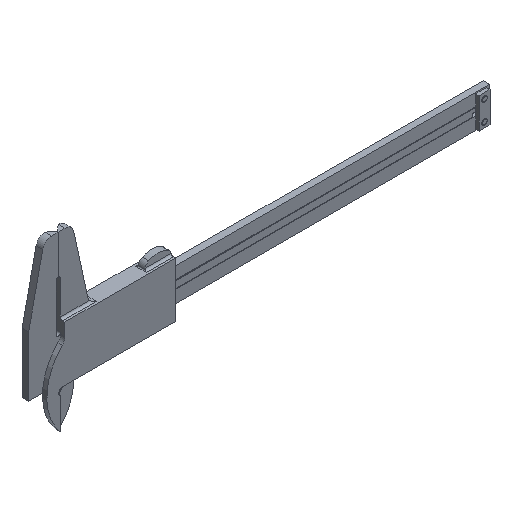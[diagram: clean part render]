
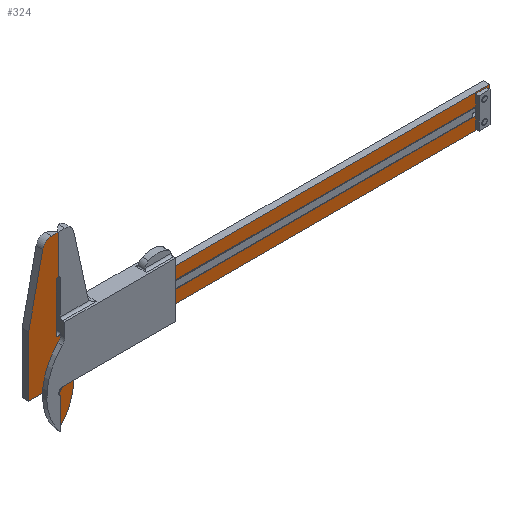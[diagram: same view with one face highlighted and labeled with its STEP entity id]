
A CAD part, isometric view. The second image highlights one B-rep face of the part: STEP entity #324.
In plain terms, the highlighted planar face has unit normal (0, -1, 0).
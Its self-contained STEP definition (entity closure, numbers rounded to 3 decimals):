
#324=ADVANCED_FACE('',(#13123),#13125,.F.);
#13123=FACE_OUTER_BOUND('',#13124,.T.);
#13124=EDGE_LOOP('',(#24093,#24094,#24095,#24096,#24097,#24098,#24099,#24100,#24101,
#24102,#24103,#24104,#24105,#24106,#24107,#24108,#24109,#24110,#24111,#24112,#24113,
#24114,#24115,#24116,#24117,#24118,#24119,#24120,#24121,#24122));
#13125=PLANE('',#13126);
#13126=AXIS2_PLACEMENT_3D('',#13127,#13128,#13129);
#13127=CARTESIAN_POINT('',(0.,0.,0.));
#13128=DIRECTION('',(0.,1.,0.));
#13129=DIRECTION('',(1.,0.,0.));
#24093=ORIENTED_EDGE('',*,*,#32143,.F.);
#24094=ORIENTED_EDGE('',*,*,#32152,.F.);
#24095=ORIENTED_EDGE('',*,*,#32159,.T.);
#24096=ORIENTED_EDGE('',*,*,#32160,.T.);
#24097=ORIENTED_EDGE('',*,*,#32161,.T.);
#24098=ORIENTED_EDGE('',*,*,#32153,.F.);
#24099=ORIENTED_EDGE('',*,*,#32150,.F.);
#24100=ORIENTED_EDGE('',*,*,#32146,.F.);
#24101=ORIENTED_EDGE('',*,*,#32162,.T.);
#24102=ORIENTED_EDGE('',*,*,#32163,.F.);
#24103=ORIENTED_EDGE('',*,*,#32164,.F.);
#24104=ORIENTED_EDGE('',*,*,#32165,.F.);
#24105=ORIENTED_EDGE('',*,*,#32166,.F.);
#24106=ORIENTED_EDGE('',*,*,#32167,.F.);
#24107=ORIENTED_EDGE('',*,*,#32168,.F.);
#24108=ORIENTED_EDGE('',*,*,#32169,.F.);
#24109=ORIENTED_EDGE('',*,*,#32170,.F.);
#24110=ORIENTED_EDGE('',*,*,#32171,.F.);
#24111=ORIENTED_EDGE('',*,*,#32172,.F.);
#24112=ORIENTED_EDGE('',*,*,#32173,.F.);
#24113=ORIENTED_EDGE('',*,*,#32174,.F.);
#24114=ORIENTED_EDGE('',*,*,#32175,.F.);
#24115=ORIENTED_EDGE('',*,*,#32176,.F.);
#24116=ORIENTED_EDGE('',*,*,#32177,.F.);
#24117=ORIENTED_EDGE('',*,*,#32178,.F.);
#24118=ORIENTED_EDGE('',*,*,#32179,.F.);
#24119=ORIENTED_EDGE('',*,*,#32180,.F.);
#24120=ORIENTED_EDGE('',*,*,#32181,.F.);
#24121=ORIENTED_EDGE('',*,*,#32182,.T.);
#24122=ORIENTED_EDGE('',*,*,#32148,.F.);
#32143=EDGE_CURVE('',#36188,#36189,#36190,.F.);
#32146=EDGE_CURVE('',#36193,#36194,#36195,.F.);
#32148=EDGE_CURVE('',#36189,#36197,#36198,.F.);
#32150=EDGE_CURVE('',#36194,#36200,#36201,.F.);
#32152=EDGE_CURVE('',#36203,#36188,#36204,.F.);
#32153=EDGE_CURVE('',#36200,#36205,#36206,.F.);
#32159=EDGE_CURVE('',#36203,#36216,#36217,.F.);
#32160=EDGE_CURVE('',#36216,#36218,#36219,.T.);
#32161=EDGE_CURVE('',#36218,#36205,#36220,.T.);
#32162=EDGE_CURVE('',#36193,#36221,#36222,.T.);
#32163=EDGE_CURVE('',#36223,#36221,#36224,.T.);
#32164=EDGE_CURVE('',#36225,#36223,#36226,.T.);
#32165=EDGE_CURVE('',#36227,#36225,#36228,.T.);
#32166=EDGE_CURVE('',#36229,#36227,#36230,.T.);
#32167=EDGE_CURVE('',#36231,#36229,#36232,.T.);
#32168=EDGE_CURVE('',#36233,#36231,#36234,.T.);
#32169=EDGE_CURVE('',#36235,#36233,#36236,.T.);
#32170=EDGE_CURVE('',#36237,#36235,#36238,.T.);
#32171=EDGE_CURVE('',#36239,#36237,#36240,.T.);
#32172=EDGE_CURVE('',#36241,#36239,#36242,.T.);
#32173=EDGE_CURVE('',#36243,#36241,#36244,.T.);
#32174=EDGE_CURVE('',#36245,#36243,#36246,.T.);
#32175=EDGE_CURVE('',#36247,#36245,#36248,.T.);
#32176=EDGE_CURVE('',#36249,#36247,#36250,.T.);
#32177=EDGE_CURVE('',#36251,#36249,#36252,.T.);
#32178=EDGE_CURVE('',#36253,#36251,#36254,.T.);
#32179=EDGE_CURVE('',#36255,#36253,#36256,.T.);
#32180=EDGE_CURVE('',#36257,#36255,#36258,.T.);
#32181=EDGE_CURVE('',#36259,#36257,#36260,.T.);
#32182=EDGE_CURVE('',#36259,#36197,#36261,.F.);
#36188=VERTEX_POINT('',#42935);
#36189=VERTEX_POINT('',#42936);
#36190=LINE('',#42937,#42938);
#36193=VERTEX_POINT('',#42946);
#36194=VERTEX_POINT('',#42947);
#36195=LINE('',#42948,#42949);
#36197=VERTEX_POINT('',#42954);
#36198=LINE('',#42955,#42956);
#36200=VERTEX_POINT('',#42961);
#36201=LINE('',#42962,#42963);
#36203=VERTEX_POINT('',#42968);
#36204=LINE('',#42969,#42970);
#36205=VERTEX_POINT('',#42972);
#36206=LINE('',#42973,#42974);
#36216=VERTEX_POINT('',#42999);
#36217=LINE('',#43000,#43001);
#36218=VERTEX_POINT('',#43003);
#36219=LINE('',#43004,#43005);
#36220=LINE('',#43007,#43008);
#36221=VERTEX_POINT('',#43010);
#36222=LINE('',#43011,#43012);
#36223=VERTEX_POINT('',#43014);
#36224=LINE('',#43015,#43016);
#36225=VERTEX_POINT('',#43018);
#36226=LINE('',#43019,#43020);
#36227=VERTEX_POINT('',#43022);
#36228=CIRCLE('',#43023,1.);
#36229=VERTEX_POINT('',#43027);
#36230=LINE('',#43028,#43029);
#36231=VERTEX_POINT('',#43031);
#36232=CIRCLE('',#43032,1.);
#36233=VERTEX_POINT('',#43036);
#36234=LINE('',#43037,#43038);
#36235=VERTEX_POINT('',#43040);
#36236=LINE('',#43041,#43042);
#36237=VERTEX_POINT('',#43044);
#36238=CIRCLE('',#43045,4.);
#36239=VERTEX_POINT('',#43049);
#36240=LINE('',#43050,#43051);
#36241=VERTEX_POINT('',#43053);
#36242=LINE('',#43054,#43055);
#36243=VERTEX_POINT('',#43057);
#36244=LINE('',#43058,#43059);
#36245=VERTEX_POINT('',#43061);
#36246=CIRCLE('',#43062,1.742);
#36247=VERTEX_POINT('',#43066);
#36248=LINE('',#43067,#43068);
#36249=VERTEX_POINT('',#43070);
#36250=LINE('',#43071,#43072);
#36251=VERTEX_POINT('',#43074);
#36252=CIRCLE('',#43075,24.747);
#36253=VERTEX_POINT('',#43079);
#36254=LINE('',#43080,#43081);
#36255=VERTEX_POINT('',#43083);
#36256=CIRCLE('',#43084,1.);
#36257=VERTEX_POINT('',#43088);
#36258=LINE('',#43089,#43090);
#36259=VERTEX_POINT('',#43092);
#36260=LINE('',#43093,#43094);
#36261=LINE('',#43096,#43097);
#42935=CARTESIAN_POINT('',(190.115,0.,-7.));
#42936=CARTESIAN_POINT('',(195.115,0.,-7.));
#42937=CARTESIAN_POINT('',(195.115,0.,-7.));
#42938=VECTOR('',#42939,1.);
#42939=DIRECTION('',(-1.,0.,0.));
#42946=CARTESIAN_POINT('',(195.115,0.,1.75));
#42947=CARTESIAN_POINT('',(195.115,0.,7.));
#42948=CARTESIAN_POINT('',(195.115,0.,7.));
#42949=VECTOR('',#42950,1.);
#42950=DIRECTION('',(0.,0.,-1.));
#42954=CARTESIAN_POINT('',(195.115,0.,-1.75));
#42955=CARTESIAN_POINT('',(195.115,0.,-1.75));
#42956=VECTOR('',#42957,1.);
#42957=DIRECTION('',(0.,0.,-1.));
#42961=CARTESIAN_POINT('',(190.115,0.,7.));
#42962=CARTESIAN_POINT('',(190.115,0.,7.));
#42963=VECTOR('',#42964,1.);
#42964=DIRECTION('',(1.,0.,0.));
#42968=CARTESIAN_POINT('',(190.115,0.,-1.75));
#42969=CARTESIAN_POINT('',(190.115,0.,-7.));
#42970=VECTOR('',#42971,1.);
#42971=DIRECTION('',(0.,0.,1.));
#42972=CARTESIAN_POINT('',(190.115,0.,1.75));
#42973=CARTESIAN_POINT('',(190.115,0.,1.75));
#42974=VECTOR('',#42975,1.);
#42975=DIRECTION('',(0.,0.,1.));
#42999=CARTESIAN_POINT('',(10.,0.,-1.75));
#43000=CARTESIAN_POINT('',(10.,0.,-1.75));
#43001=VECTOR('',#43002,1.);
#43002=DIRECTION('',(1.,0.,0.));
#43003=CARTESIAN_POINT('',(10.,0.,1.75));
#43004=CARTESIAN_POINT('',(10.,0.,-1.75));
#43005=VECTOR('',#43006,1.);
#43006=DIRECTION('',(0.,0.,1.));
#43007=CARTESIAN_POINT('',(10.,0.,1.75));
#43008=VECTOR('',#43009,1.);
#43009=DIRECTION('',(1.,0.,0.));
#43010=CARTESIAN_POINT('',(196.5,0.,1.75));
#43011=CARTESIAN_POINT('',(195.115,0.,1.75));
#43012=VECTOR('',#43013,1.);
#43013=DIRECTION('',(1.,0.,0.));
#43014=CARTESIAN_POINT('',(196.5,0.,7.5));
#43015=CARTESIAN_POINT('',(196.5,0.,7.5));
#43016=VECTOR('',#43017,1.);
#43017=DIRECTION('',(0.,0.,-1.));
#43018=CARTESIAN_POINT('',(1.,0.,7.5));
#43019=CARTESIAN_POINT('',(1.,0.,7.5));
#43020=VECTOR('',#43021,1.);
#43021=DIRECTION('',(1.,0.,0.));
#43022=CARTESIAN_POINT('',(-1.,0.,7.5));
#43023=AXIS2_PLACEMENT_3D('',#43024,#43025,#43026);
#43024=CARTESIAN_POINT('',(0.,0.,7.5));
#43025=DIRECTION('',(0.,-1.,0.));
#43026=DIRECTION('',(-1.,0.,0.));
#43027=CARTESIAN_POINT('',(-1.,0.,28.779));
#43028=CARTESIAN_POINT('',(-1.,0.,28.779));
#43029=VECTOR('',#43030,1.);
#43030=DIRECTION('',(0.,0.,-1.));
#43031=CARTESIAN_POINT('',(0.,0.,29.779));
#43032=AXIS2_PLACEMENT_3D('',#43033,#43034,#43035);
#43033=CARTESIAN_POINT('',(0.,0.,28.779));
#43034=DIRECTION('',(0.,-1.,0.));
#43035=DIRECTION('',(0.,0.,1.));
#43036=CARTESIAN_POINT('',(0.,0.,47.5));
#43037=CARTESIAN_POINT('',(0.,0.,47.5));
#43038=VECTOR('',#43039,1.);
#43039=DIRECTION('',(0.,0.,-1.));
#43040=CARTESIAN_POINT('',(-3.11,0.,47.5));
#43041=CARTESIAN_POINT('',(-3.11,0.,47.5));
#43042=VECTOR('',#43043,1.);
#43043=DIRECTION('',(1.,0.,0.));
#43044=CARTESIAN_POINT('',(-7.058,0.,44.142));
#43045=AXIS2_PLACEMENT_3D('',#43046,#43047,#43048);
#43046=CARTESIAN_POINT('',(-3.11,0.,43.5));
#43047=DIRECTION('',(0.,1.,0.));
#43048=DIRECTION('',(-0.987,0.,0.16));
#43049=CARTESIAN_POINT('',(-13.5,0.,14.779));
#43050=CARTESIAN_POINT('',(-13.5,0.,14.779));
#43051=VECTOR('',#43052,1.);
#43052=DIRECTION('',(0.214,0.,0.977));
#43053=CARTESIAN_POINT('',(-13.5,0.,-12.5));
#43054=CARTESIAN_POINT('',(-13.5,0.,-12.5));
#43055=VECTOR('',#43056,1.);
#43056=DIRECTION('',(0.,0.,1.));
#43057=CARTESIAN_POINT('',(0.,0.,-12.5));
#43058=CARTESIAN_POINT('',(0.,0.,-12.5));
#43059=VECTOR('',#43060,1.);
#43060=DIRECTION('',(-1.,0.,0.));
#43061=CARTESIAN_POINT('',(0.,0.,-15.984));
#43062=AXIS2_PLACEMENT_3D('',#43063,#43064,#43065);
#43063=CARTESIAN_POINT('',(0.,0.,-14.242));
#43064=DIRECTION('',(0.,-1.,0.));
#43065=DIRECTION('',(0.,0.,-1.));
#43066=CARTESIAN_POINT('',(0.,0.,-29.5));
#43067=CARTESIAN_POINT('',(0.,0.,-29.5));
#43068=VECTOR('',#43069,1.);
#43069=DIRECTION('',(0.,0.,1.));
#43070=CARTESIAN_POINT('',(1.232,0.,-29.5));
#43071=CARTESIAN_POINT('',(1.232,0.,-29.5));
#43072=VECTOR('',#43073,1.);
#43073=DIRECTION('',(-1.,0.,0.));
#43074=CARTESIAN_POINT('',(7.182,0.,-12.5));
#43075=AXIS2_PLACEMENT_3D('',#43076,#43077,#43078);
#43076=CARTESIAN_POINT('',(-17.549,0.,-13.385));
#43077=DIRECTION('',(0.,1.,0.));
#43078=DIRECTION('',(0.999,0.,0.036));
#43079=CARTESIAN_POINT('',(7.182,0.,-7.5));
#43080=CARTESIAN_POINT('',(7.182,0.,-7.5));
#43081=VECTOR('',#43082,1.);
#43082=DIRECTION('',(0.,0.,-1.));
#43083=CARTESIAN_POINT('',(9.182,0.,-7.5));
#43084=AXIS2_PLACEMENT_3D('',#43085,#43086,#43087);
#43085=CARTESIAN_POINT('',(8.182,0.,-7.5));
#43086=DIRECTION('',(0.,-1.,0.));
#43087=DIRECTION('',(1.,0.,0.));
#43088=CARTESIAN_POINT('',(196.5,0.,-7.5));
#43089=CARTESIAN_POINT('',(196.5,0.,-7.5));
#43090=VECTOR('',#43091,1.);
#43091=DIRECTION('',(-1.,0.,0.));
#43092=CARTESIAN_POINT('',(196.5,0.,-1.75));
#43093=CARTESIAN_POINT('',(196.5,0.,-1.75));
#43094=VECTOR('',#43095,1.);
#43095=DIRECTION('',(0.,0.,-1.));
#43096=CARTESIAN_POINT('',(195.115,0.,-1.75));
#43097=VECTOR('',#43098,1.);
#43098=DIRECTION('',(1.,0.,0.));
